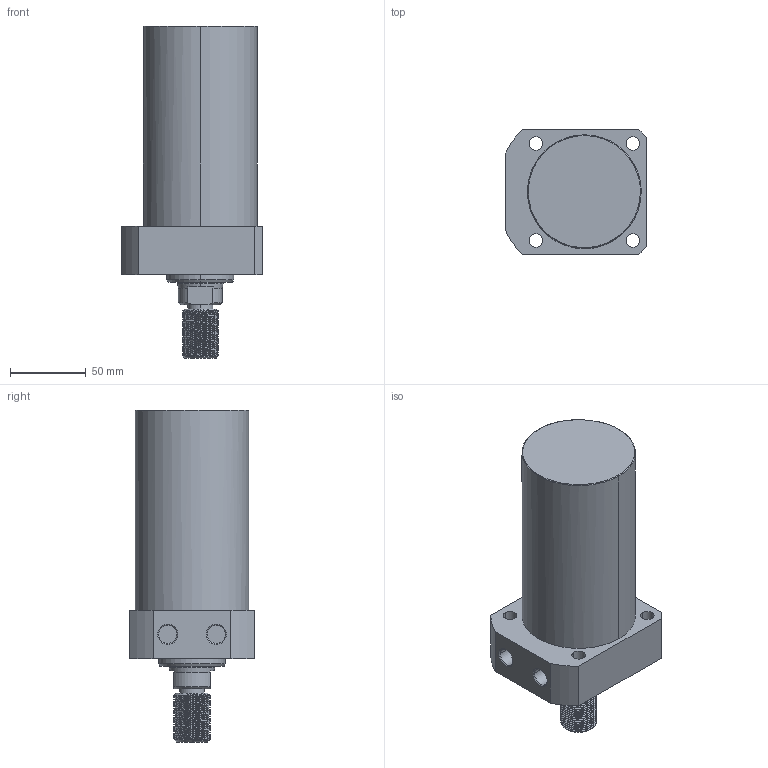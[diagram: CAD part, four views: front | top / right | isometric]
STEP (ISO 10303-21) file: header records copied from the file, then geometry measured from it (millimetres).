
FILE_DESCRIPTION((' '),'2;1');
FILE_NAME( 'TLLR-075CT-095.STEP.stp', '2025-10-24T16:35:11', (' '), ('--- Datakit www.datakit.com---'), ' Datakit CrossCadWare V2024.1 Dec 21 2023', 'Mastercam 2025', ' ');
FILE_SCHEMA(('AUTOMOTIVE_DESIGN { 1 0 10303 214 1 1 1 1 }'));
Length unit declared in the file: millimetre
Products named in the file (1): TLLR-075CT-095
Bounding box: 93 x 82 x 219 mm (x, y, z)
Volume: 839988.1 mm3; surface area: 67376.3 mm2
Topology: 1 solids, 1 shells, 109 faces, 397 edges, 299 vertices
Faces by surface type: cylinder 69, plane 22, cone 14, torus 2, bspline 2
Entity records: 11723 total; most frequent: CARTESIAN_POINT 8356, ORIENTED_EDGE 794, DIRECTION 545, EDGE_CURVE 397, VERTEX_POINT 299, AXIS2_PLACEMENT_3D 219, B_SPLINE_CURVE_WITH_KNOTS 178, EDGE_LOOP 126
